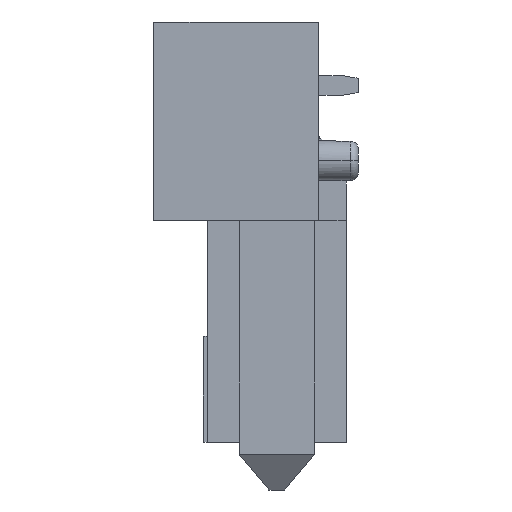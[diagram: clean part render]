
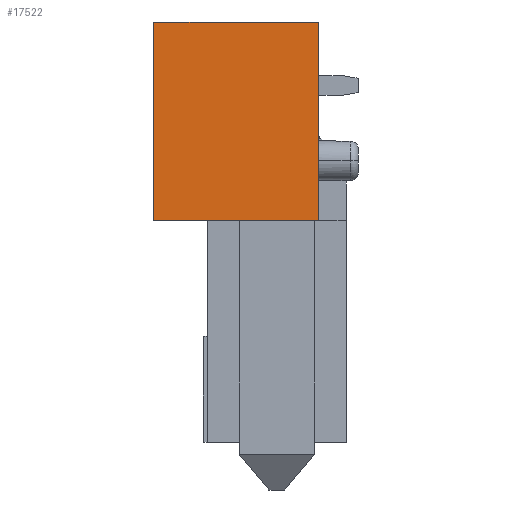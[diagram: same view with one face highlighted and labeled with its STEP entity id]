
A CAD part, left-side view. The second image highlights one B-rep face of the part: STEP entity #17522.
In plain terms, the highlighted planar face has unit normal (-1, 0, 0).
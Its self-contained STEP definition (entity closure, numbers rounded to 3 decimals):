
#3219=DIRECTION('',(0.,0.,-1.));
#3220=VECTOR('',#3219,5.);
#3221=CARTESIAN_POINT('',(-16.5,-1.05,10.6));
#3222=LINE('',#3221,#3220);
#3223=DIRECTION('',(0.,1.,0.));
#3224=VECTOR('',#3223,4.15);
#3225=CARTESIAN_POINT('',(-16.5,-1.05,5.6));
#3226=LINE('',#3225,#3224);
#3227=DIRECTION('',(0.,0.,1.));
#3228=VECTOR('',#3227,5.);
#3229=CARTESIAN_POINT('',(-16.5,3.1,5.6));
#3230=LINE('',#3229,#3228);
#3231=DIRECTION('',(0.,-1.,0.));
#3232=VECTOR('',#3231,4.15);
#3233=CARTESIAN_POINT('',(-16.5,3.1,10.6));
#3234=LINE('',#3233,#3232);
#10155=CARTESIAN_POINT('',(-16.5,3.1,5.6));
#10156=VERTEX_POINT('',#10155);
#10157=CARTESIAN_POINT('',(-16.5,-1.05,5.6));
#10158=VERTEX_POINT('',#10157);
#10173=CARTESIAN_POINT('',(-16.5,3.1,10.6));
#10174=VERTEX_POINT('',#10173);
#10309=CARTESIAN_POINT('',(-16.5,-1.05,10.6));
#10310=VERTEX_POINT('',#10309);
#17511=CARTESIAN_POINT('',(-16.5,1.025,8.1));
#17512=DIRECTION('',(1.,0.,0.));
#17513=DIRECTION('',(0.,-1.,0.));
#17514=AXIS2_PLACEMENT_3D('',#17511,#17512,#17513);
#17515=PLANE('',#17514);
#17516=ORIENTED_EDGE('',*,*,#15128,.T.);
#17517=ORIENTED_EDGE('',*,*,#15176,.T.);
#17518=ORIENTED_EDGE('',*,*,#15224,.T.);
#17519=ORIENTED_EDGE('',*,*,#15285,.T.);
#17520=EDGE_LOOP('',(#17516,#17517,#17518,#17519));
#17521=FACE_OUTER_BOUND('',#17520,.F.);
#15128=EDGE_CURVE('',#10310,#10158,#3222,.T.);
#15176=EDGE_CURVE('',#10158,#10156,#3226,.T.);
#15224=EDGE_CURVE('',#10156,#10174,#3230,.T.);
#15285=EDGE_CURVE('',#10174,#10310,#3234,.T.);
#17522=ADVANCED_FACE('',(#17521),#17515,.F.);
